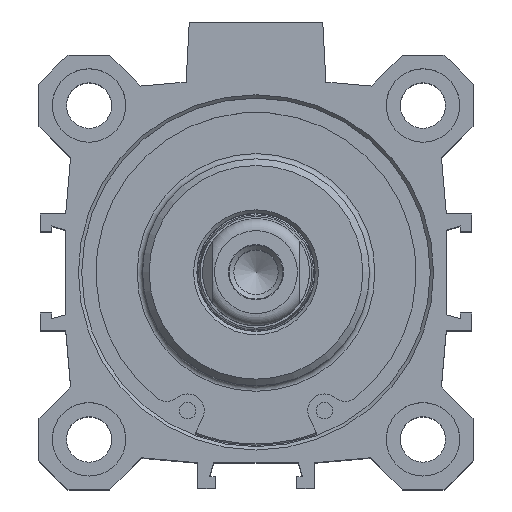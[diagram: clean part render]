
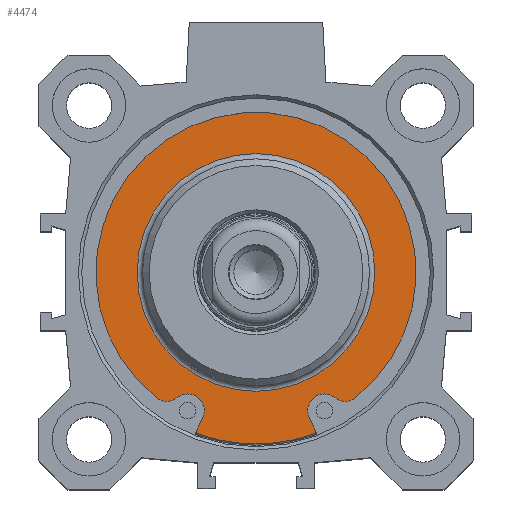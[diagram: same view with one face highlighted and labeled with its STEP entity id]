
A CAD part, top view. The second image highlights one B-rep face of the part: STEP entity #4474.
In plain terms, the highlighted planar face has unit normal (0, 0, 1).
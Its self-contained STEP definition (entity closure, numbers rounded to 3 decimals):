
#76=PLANE('',#4723);
#183=LINE('',#6058,#405);
#187=LINE('',#6070,#409);
#405=VECTOR('',#5097,1000.);
#409=VECTOR('',#5109,1000.);
#746=ORIENTED_EDGE('',*,*,#1499,.F.);
#747=ORIENTED_EDGE('',*,*,#1480,.T.);
#748=ORIENTED_EDGE('',*,*,#1498,.T.);
#749=ORIENTED_EDGE('',*,*,#1486,.T.);
#750=ORIENTED_EDGE('',*,*,#1490,.T.);
#751=ORIENTED_EDGE('',*,*,#1492,.T.);
#752=ORIENTED_EDGE('',*,*,#1469,.T.);
#753=ORIENTED_EDGE('',*,*,#1473,.T.);
#754=ORIENTED_EDGE('',*,*,#1476,.T.);
#1469=EDGE_CURVE('',#1860,#1859,#2155,.T.);
#1473=EDGE_CURVE('',#1859,#1862,#2157,.T.);
#1476=EDGE_CURVE('',#1862,#1864,#2159,.T.);
#1480=EDGE_CURVE('',#1864,#1867,#183,.T.);
#1486=EDGE_CURVE('',#1872,#1871,#187,.T.);
#1490=EDGE_CURVE('',#1871,#1874,#2163,.T.);
#1492=EDGE_CURVE('',#1874,#1860,#2165,.T.);
#1498=EDGE_CURVE('',#1867,#1872,#2171,.T.);
#1499=EDGE_CURVE('',#1879,#1879,#2172,.T.);
#1859=VERTEX_POINT('',#6035);
#1860=VERTEX_POINT('',#6037);
#1862=VERTEX_POINT('',#6043);
#1864=VERTEX_POINT('',#6049);
#1867=VERTEX_POINT('',#6057);
#1871=VERTEX_POINT('',#6069);
#1872=VERTEX_POINT('',#6071);
#1874=VERTEX_POINT('',#6077);
#1879=VERTEX_POINT('',#6102);
#2155=CIRCLE('',#4691,23.975);
#2157=CIRCLE('',#4694,2.5);
#2159=CIRCLE('',#4697,2.5);
#2163=CIRCLE('',#4705,2.5);
#2165=CIRCLE('',#4708,2.5);
#2171=CIRCLE('',#4722,25.7);
#2172=CIRCLE('',#4724,17.8);
#2332=EDGE_LOOP('',(#746));
#2333=EDGE_LOOP('',(#747,#748,#749,#750,#751,#752,#753,#754));
#2662=FACE_BOUND('',#2332,.T.);
#2663=FACE_BOUND('',#2333,.T.);
#4474=ADVANCED_FACE('',(#2662,#2663),#76,.T.);
#4691=AXIS2_PLACEMENT_3D('',#6036,#5075,#5076);
#4694=AXIS2_PLACEMENT_3D('',#6044,#5083,#5084);
#4697=AXIS2_PLACEMENT_3D('',#6050,#5090,#5091);
#4705=AXIS2_PLACEMENT_3D('',#6078,#5116,#5117);
#4708=AXIS2_PLACEMENT_3D('',#6081,#5122,#5123);
#4722=AXIS2_PLACEMENT_3D('',#6099,#5150,#5151);
#4723=AXIS2_PLACEMENT_3D('',#6100,#5152,#5153);
#4724=AXIS2_PLACEMENT_3D('',#6101,#5154,#5155);
#5075=DIRECTION('',(0.,0.,1.));
#5076=DIRECTION('',(-0.623,0.782,0.));
#5083=DIRECTION('',(0.,0.,1.));
#5084=DIRECTION('',(0.623,0.782,0.));
#5090=DIRECTION('',(0.,0.,-1.));
#5091=DIRECTION('',(0.906,-0.424,0.));
#5097=DIRECTION('',(-0.424,-0.906,0.));
#5109=DIRECTION('',(-0.424,0.906,0.));
#5116=DIRECTION('',(0.,0.,-1.));
#5117=DIRECTION('',(0.627,0.779,0.));
#5122=DIRECTION('',(0.,0.,1.));
#5123=DIRECTION('',(0.627,0.779,0.));
#5150=DIRECTION('',(0.,0.,1.));
#5151=DIRECTION('',(0.,1.,0.));
#5152=DIRECTION('',(0.,0.,1.));
#5153=DIRECTION('',(1.,0.,0.));
#5154=DIRECTION('',(0.,0.,1.));
#5155=DIRECTION('',(0.,1.,0.));
#6035=CARTESIAN_POINT('',(-14.933,-18.756,84.4));
#6036=CARTESIAN_POINT('',(0.,0.,84.4));
#6037=CARTESIAN_POINT('',(14.933,-18.756,84.4));
#6043=CARTESIAN_POINT('',(-11.809,-18.748,84.4));
#6044=CARTESIAN_POINT('',(-13.376,-16.8,84.4));
#6049=CARTESIAN_POINT('',(-7.978,-21.756,84.4));
#6050=CARTESIAN_POINT('',(-10.242,-20.696,84.4));
#6057=CARTESIAN_POINT('',(-9.053,-24.053,84.4));
#6058=CARTESIAN_POINT('',(-7.978,-21.756,84.4));
#6069=CARTESIAN_POINT('',(7.978,-21.756,84.4));
#6070=CARTESIAN_POINT('',(9.053,-24.053,84.4));
#6071=CARTESIAN_POINT('',(9.053,-24.053,84.4));
#6077=CARTESIAN_POINT('',(11.809,-18.748,84.4));
#6078=CARTESIAN_POINT('',(10.242,-20.696,84.4));
#6081=CARTESIAN_POINT('',(13.376,-16.8,84.4));
#6099=CARTESIAN_POINT('',(0.,0.,84.4));
#6100=CARTESIAN_POINT('',(0.,21.75,84.4));
#6101=CARTESIAN_POINT('',(0.,0.,84.4));
#6102=CARTESIAN_POINT('',(0.,17.8,84.4));
